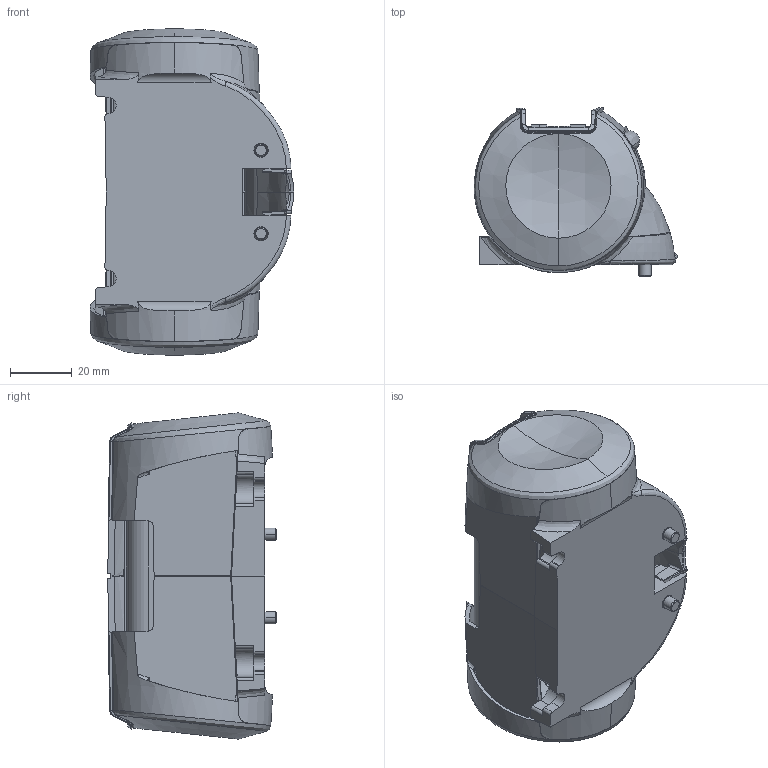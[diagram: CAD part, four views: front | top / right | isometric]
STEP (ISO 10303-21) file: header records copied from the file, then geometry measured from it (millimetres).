
FILE_DESCRIPTION (( 'STEP AP203' ), '1' );
FILE_NAME ('ELECTRIC GRIPPER.STEP', '2013-04-05T15:33:51', ( '' ), ( '' ), 'SwSTEP 2.0', 'SolidWorks 2012', '' );
FILE_SCHEMA (( 'CONFIG_CONTROL_DESIGN' ));
Length unit declared in the file: millimetre
Products named in the file (1): ELECTRIC GRIPPER
Bounding box: 65.9 x 54.59 x 105.52 mm (x, y, z)
Surface area: 52395.8 mm2 (no closed solid volume)
Topology: 0 solids, 10 shells, 481 faces, 1662 edges, 1135 vertices
Faces by surface type: bspline 193, plane 129, cylinder 102, cone 33, torus 12, sphere 12
Entity records: 31466 total; most frequent: CARTESIAN_POINT 19356, ORIENTED_EDGE 2727, DIRECTION 1860, EDGE_CURVE 1656, VERTEX_POINT 1135, B_SPLINE_CURVE_WITH_KNOTS 694, AXIS2_PLACEMENT_3D 662, LINE 536
